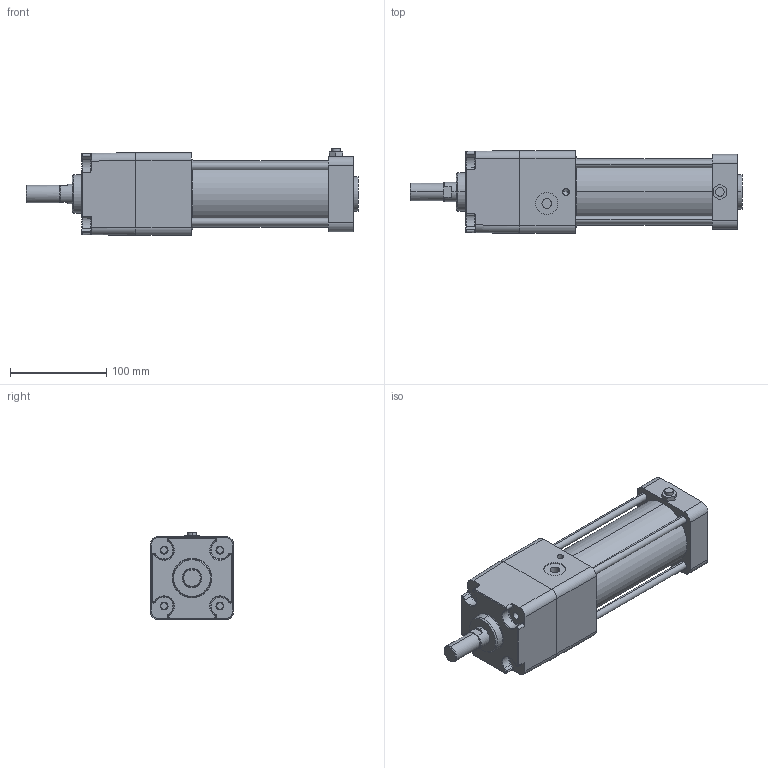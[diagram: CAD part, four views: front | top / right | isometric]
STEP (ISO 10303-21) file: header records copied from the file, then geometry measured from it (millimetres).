
FILE_DESCRIPTION (( 'STEP AP203' ), '1' );
FILE_NAME ('KGSP2-63-100-N.STEP', '2016-04-20T08:00:25', ( '' ), ( '' ), 'SwSTEP 2.0', 'SolidWorks 2014', '' );
FILE_SCHEMA (( 'CONFIG_CONTROL_DESIGN' ));
Length unit declared in the file: millimetre
Products named in the file (7): KGSP2-63-Before; KG2-63-After; KGSP2-63-100; KGSP2-63-100-N; KGSP2-63-Mi
Assembly tree (12 placements, depth 2):
  KGSP2-63-100-N
    KGSP2-63-Before
    KGSP2-63-Mi
    KGSP2-63-100
    KG2-63-After
    (unnamed)  x4
    (unnamed)  x4
Bounding box: 344.6 x 86 x 90.3 mm (x, y, z)
Volume: 1485090.1 mm3; surface area: 180241.8 mm2
Topology: 12 solids, 12 shells, 336 faces, 803 edges, 502 vertices
Faces by surface type: cylinder 142, plane 108, cone 32, torus 30, bspline 24
Entity records: 10070 total; most frequent: CARTESIAN_POINT 2382, DIRECTION 1472, ORIENTED_EDGE 1406, EDGE_CURVE 703, AXIS2_PLACEMENT_3D 575, VERTEX_POINT 448, EDGE_LOOP 335, LINE 322
